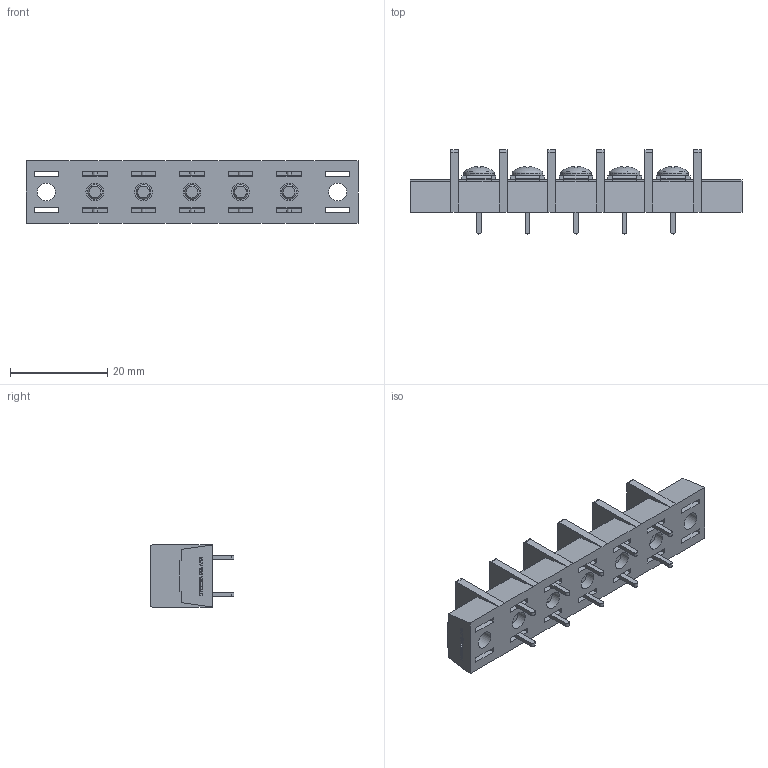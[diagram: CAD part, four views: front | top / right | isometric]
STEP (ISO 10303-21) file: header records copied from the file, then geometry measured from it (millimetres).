
FILE_DESCRIPTION(/* description */ ('Alibre Inc.'),/* implementation_level */ '2;1');
FILE_NAME(/* name */ 'export0',/* time_stamp */ '2015-10-23T18:49:35+09:00',/* author */ (''),/* organization */ (''),/* preprocessor_version */ 'ST-DEVELOPER v14',/* originating_system */ 'Alibre',/* authorisation */ '');
FILE_SCHEMA (('CONFIG_CONTROL_DESIGN'));
Length unit declared in the file: centimetre
Products named in the file (1): ID_1
Bounding box: 68.4 x 17.3 x 12.8 mm (x, y, z)
Volume: 5853.4 mm3; surface area: 6846.5 mm2
Topology: 1 solids, 86 shells, 1837 faces, 4737 edges, 3134 vertices
Faces by surface type: plane 1372, bspline 364, cylinder 61, cone 25, torus 10, sphere 5
Full cylindrical faces by diameter (mm): 3 x10, 3.7 x7, 4.6 x7, 6.3 x5
Entity records: 53413 total; most frequent: CARTESIAN_POINT 12927, ORIENTED_EDGE 9372, DIRECTION 5576, EDGE_CURVE 4686, VECTOR 3619, LINE 3619, VERTEX_POINT 3127, EDGE_LOOP 2025
